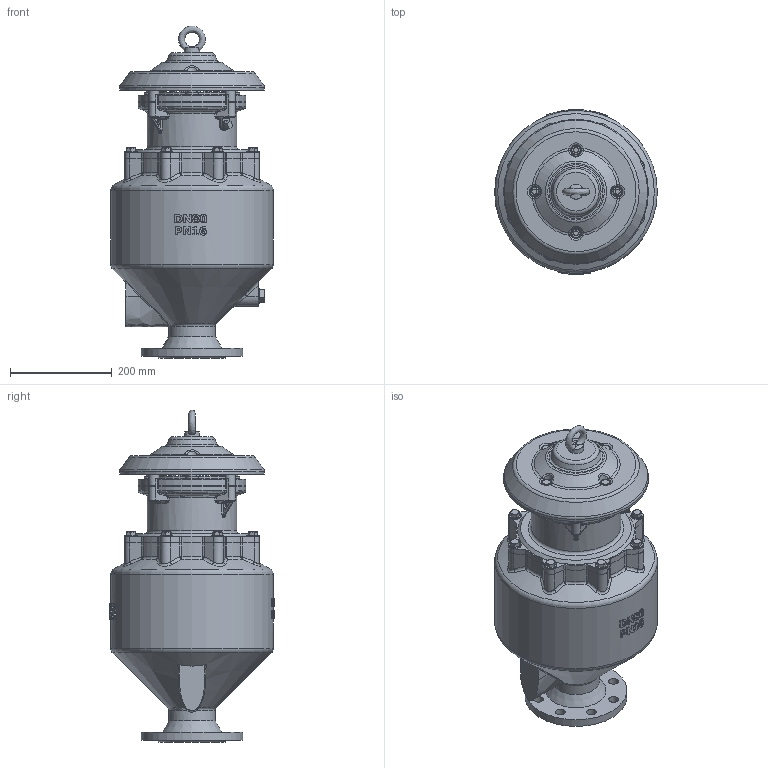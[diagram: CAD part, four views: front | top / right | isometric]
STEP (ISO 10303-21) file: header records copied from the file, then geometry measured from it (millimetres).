
FILE_DESCRIPTION(('STEP AP203'), '1');
FILE_NAME('Âîçäóøíûé êëàïàí FLOWJET SR', '', ('UNSPECIFIED'), ('UNSPECIFIED'), 'C3D Converter', 'C3D Toolkit', '');
FILE_SCHEMA(('CONFIG_CONTROL_DESIGN'));
Length unit declared in the file: millimetre
Assembly tree (50 placements, depth 2):
  (unnamed)
    (unnamed)
    (unnamed)
    (unnamed)
    (unnamed)
    (unnamed)
    (unnamed)
    (unnamed)
    (unnamed)
    (unnamed)
    (unnamed)
    (unnamed)
    (unnamed)  x4
    (unnamed)
    (unnamed)  x4
    (unnamed)  x8
    (unnamed)  x8
    (unnamed)  x4
    (unnamed)  x4
    (unnamed)
    (unnamed)
    (unnamed)  x4
Bounding box: 320 x 324 x 652.96 mm (x, y, z)
Volume: 6282297.3 mm3; surface area: 1905309 mm2
Topology: 51 solids, 52 shells, 1798 faces, 4514 edges, 2867 vertices
Faces by surface type: plane 587, cylinder 437, bspline 378, extrusion 152, torus 147, cone 88, sphere 9
Full cylindrical faces by diameter (mm): 5.35 x4, 6 x16, 6.4 x4, 7 x4, 9.4 x2, 10 x18, 11.026 x8, 12 x50, 13 x8, 15 x2, 16 x12, 18 x2, 19 x8, 20 x4, 21.3 x2, 24 x10, 30 x1, 36 x1, 36.548 x1, 74 x1, 80 x2, 92 x1, 130 x1, 132 x1, 140 x1, 142 x4, 146 x5, 151 x1, 158 x2, 163 x1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
Entity records: 114948 total; most frequent: CARTESIAN_POINT 78791, ORIENTED_EDGE 7110, DIRECTION 5268, EDGE_CURVE 3555, VERTEX_POINT 2391, AXIS2_PLACEMENT_3D 2094, EDGE_LOOP 1930, B_SPLINE_CURVE_WITH_KNOTS 1666
